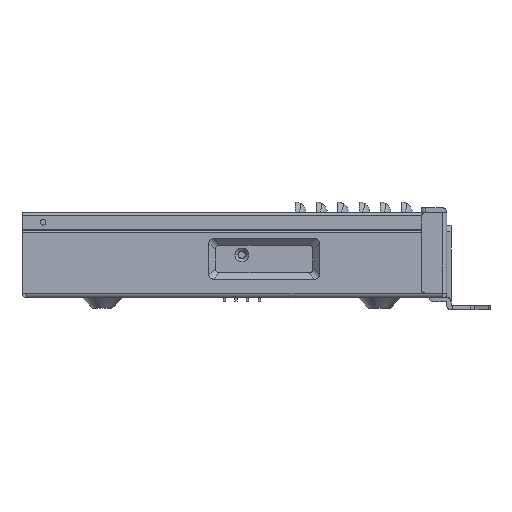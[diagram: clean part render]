
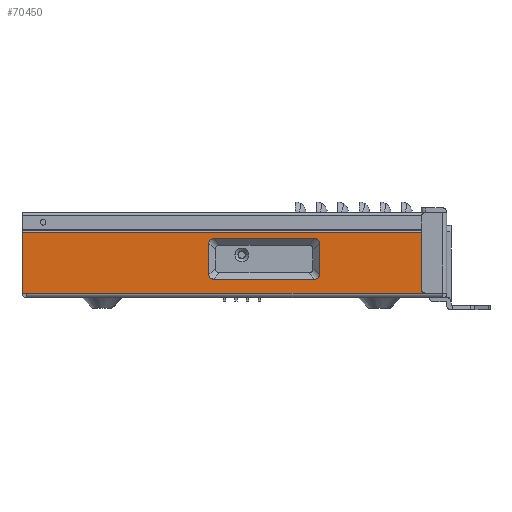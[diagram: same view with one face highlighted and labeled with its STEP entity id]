
A CAD part, front view. The second image highlights one B-rep face of the part: STEP entity #70450.
In plain terms, the highlighted planar face has unit normal (0, -1, 0).
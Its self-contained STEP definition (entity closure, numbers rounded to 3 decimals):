
#66256=DIRECTION('',(0.,0.,-1.));
#66257=VECTOR('',#66256,28.8);
#66258=CARTESIAN_POINT('',(65.678,168.042,32.9));
#66259=LINE('',#66258,#66257);
#66595=DIRECTION('',(-1.,0.,0.));
#66596=VECTOR('',#66595,47.757);
#66597=CARTESIAN_POINT('',(203.557,168.042,29.7));
#66598=LINE('',#66597,#66596);
#66602=CARTESIAN_POINT('',(205.678,168.042,27.579));
#66603=CARTESIAN_POINT('',(205.678,168.042,27.932));
#66604=CARTESIAN_POINT('',(205.564,168.042,28.526));
#66605=CARTESIAN_POINT('',(205.147,168.042,29.169));
#66606=CARTESIAN_POINT('',(204.503,168.042,29.586));
#66607=CARTESIAN_POINT('',(203.91,168.042,29.7));
#66608=CARTESIAN_POINT('',(203.557,168.042,29.7));
#66624=DIRECTION('',(0.,0.,1.));
#66625=VECTOR('',#66624,28.8);
#66626=CARTESIAN_POINT('',(263.578,168.042,4.1));
#66627=LINE('',#66626,#66625);
#66645=DIRECTION('',(0.,0.,-1.));
#66646=VECTOR('',#66645,14.757);
#66647=CARTESIAN_POINT('',(153.678,168.042,27.579));
#66648=LINE('',#66647,#66646);
#66652=CARTESIAN_POINT('',(155.799,168.042,29.7));
#66653=CARTESIAN_POINT('',(155.446,168.042,29.7));
#66654=CARTESIAN_POINT('',(154.852,168.042,29.586));
#66655=CARTESIAN_POINT('',(154.208,168.042,29.169));
#66656=CARTESIAN_POINT('',(153.792,168.042,28.526));
#66657=CARTESIAN_POINT('',(153.678,168.042,27.932));
#66658=CARTESIAN_POINT('',(153.678,168.042,27.579));
#66674=CARTESIAN_POINT('',(153.678,168.042,12.821));
#66675=CARTESIAN_POINT('',(153.678,168.042,12.468));
#66676=CARTESIAN_POINT('',(153.792,168.042,11.874));
#66677=CARTESIAN_POINT('',(154.208,168.042,11.231));
#66678=CARTESIAN_POINT('',(154.852,168.042,10.814));
#66679=CARTESIAN_POINT('',(155.446,168.042,10.7));
#66680=CARTESIAN_POINT('',(155.799,168.042,10.7));
#66710=DIRECTION('',(1.,0.,0.));
#66711=VECTOR('',#66710,47.757);
#66712=CARTESIAN_POINT('',(155.799,168.042,10.7));
#66713=LINE('',#66712,#66711);
#66717=CARTESIAN_POINT('',(203.557,168.042,10.7));
#66718=CARTESIAN_POINT('',(203.91,168.042,10.7));
#66719=CARTESIAN_POINT('',(204.503,168.042,10.814));
#66720=CARTESIAN_POINT('',(205.147,168.042,11.231));
#66721=CARTESIAN_POINT('',(205.564,168.042,11.874));
#66722=CARTESIAN_POINT('',(205.678,168.042,12.468));
#66723=CARTESIAN_POINT('',(205.678,168.042,12.821));
#66753=DIRECTION('',(0.,0.,1.));
#66754=VECTOR('',#66753,14.757);
#66755=CARTESIAN_POINT('',(205.678,168.042,12.821));
#66756=LINE('',#66755,#66754);
#66760=DIRECTION('',(1.,0.,0.));
#66761=VECTOR('',#66760,197.9);
#66762=CARTESIAN_POINT('',(65.678,168.042,32.9));
#66763=LINE('',#66762,#66761);
#66994=DIRECTION('',(1.,0.,0.));
#66995=VECTOR('',#66994,195.8);
#66996=CARTESIAN_POINT('',(67.778,168.042,4.1));
#66997=LINE('',#66996,#66995);
#69417=DIRECTION('',(-1.,0.,0.));
#69418=VECTOR('',#69417,2.1);
#69419=CARTESIAN_POINT('',(67.778,168.042,4.1));
#69420=LINE('',#69419,#69418);
#69721=CARTESIAN_POINT('',(263.578,168.042,4.1));
#69722=VERTEX_POINT('',#69721);
#69723=CARTESIAN_POINT('',(67.778,168.042,4.1));
#69724=VERTEX_POINT('',#69723);
#69733=CARTESIAN_POINT('',(65.678,168.042,4.1));
#69734=VERTEX_POINT('',#69733);
#69735=CARTESIAN_POINT('',(65.678,168.042,32.9));
#69736=VERTEX_POINT('',#69735);
#69737=CARTESIAN_POINT('',(263.578,168.042,32.9));
#69738=VERTEX_POINT('',#69737);
#69809=CARTESIAN_POINT('',(203.557,168.042,29.7));
#69810=VERTEX_POINT('',#69809);
#69811=CARTESIAN_POINT('',(155.799,168.042,29.7));
#69812=VERTEX_POINT('',#69811);
#69813=VERTEX_POINT('',#66602);
#69814=CARTESIAN_POINT('',(205.678,168.042,12.821));
#69815=VERTEX_POINT('',#69814);
#69816=VERTEX_POINT('',#66717);
#69817=CARTESIAN_POINT('',(155.799,168.042,10.7));
#69818=VERTEX_POINT('',#69817);
#69819=VERTEX_POINT('',#66674);
#69820=CARTESIAN_POINT('',(153.678,168.042,27.579));
#69821=VERTEX_POINT('',#69820);
#70418=CARTESIAN_POINT('',(201.787,168.042,19.191));
#70419=DIRECTION('',(0.,-1.,0.));
#70420=DIRECTION('',(1.,0.,0.));
#70421=AXIS2_PLACEMENT_3D('',#70418,#70419,#70420);
#70422=PLANE('',#70421);
#70423=ORIENTED_EDGE('',*,*,#70121,.F.);
#70425=ORIENTED_EDGE('',*,*,#70424,.T.);
#70427=ORIENTED_EDGE('',*,*,#70426,.F.);
#70429=ORIENTED_EDGE('',*,*,#70428,.F.);
#70431=ORIENTED_EDGE('',*,*,#70430,.T.);
#70432=EDGE_LOOP('',(#70423,#70425,#70427,#70429,#70431));
#70433=FACE_OUTER_BOUND('',#70432,.F.);
#70435=ORIENTED_EDGE('',*,*,#70434,.T.);
#70437=ORIENTED_EDGE('',*,*,#70436,.T.);
#70439=ORIENTED_EDGE('',*,*,#70438,.T.);
#70441=ORIENTED_EDGE('',*,*,#70440,.T.);
#70443=ORIENTED_EDGE('',*,*,#70442,.T.);
#70444=ORIENTED_EDGE('',*,*,#70410,.T.);
#70445=ORIENTED_EDGE('',*,*,#70399,.T.);
#70447=ORIENTED_EDGE('',*,*,#70446,.T.);
#70448=EDGE_LOOP('',(#70435,#70437,#70439,#70441,#70443,#70444,#70445,#70447));
#70449=FACE_BOUND('',#70448,.F.);
#66609=B_SPLINE_CURVE_WITH_KNOTS('',3,(#66602,#66603,#66604,#66605,#66606,
#66607,#66608),.UNSPECIFIED.,.F.,.F.,(4,1,1,1,4),(0.,0.25,0.5,0.75,
1.),.UNSPECIFIED.);
#66659=B_SPLINE_CURVE_WITH_KNOTS('',3,(#66652,#66653,#66654,#66655,#66656,
#66657,#66658),.UNSPECIFIED.,.F.,.F.,(4,1,1,1,4),(0.,0.25,0.5,0.75,
1.),.UNSPECIFIED.);
#66681=B_SPLINE_CURVE_WITH_KNOTS('',3,(#66674,#66675,#66676,#66677,#66678,
#66679,#66680),.UNSPECIFIED.,.F.,.F.,(4,1,1,1,4),(0.,0.25,0.5,0.75,
1.),.UNSPECIFIED.);
#66724=B_SPLINE_CURVE_WITH_KNOTS('',3,(#66717,#66718,#66719,#66720,#66721,
#66722,#66723),.UNSPECIFIED.,.F.,.F.,(4,1,1,1,4),(0.,0.25,0.5,0.75,
1.),.UNSPECIFIED.);
#70121=EDGE_CURVE('',#69736,#69734,#66259,.T.);
#70399=EDGE_CURVE('',#69810,#69812,#66598,.T.);
#70410=EDGE_CURVE('',#69813,#69810,#66609,.T.);
#70424=EDGE_CURVE('',#69736,#69738,#66763,.T.);
#70426=EDGE_CURVE('',#69722,#69738,#66627,.T.);
#70428=EDGE_CURVE('',#69724,#69722,#66997,.T.);
#70430=EDGE_CURVE('',#69724,#69734,#69420,.T.);
#70434=EDGE_CURVE('',#69821,#69819,#66648,.T.);
#70436=EDGE_CURVE('',#69819,#69818,#66681,.T.);
#70438=EDGE_CURVE('',#69818,#69816,#66713,.T.);
#70440=EDGE_CURVE('',#69816,#69815,#66724,.T.);
#70442=EDGE_CURVE('',#69815,#69813,#66756,.T.);
#70446=EDGE_CURVE('',#69812,#69821,#66659,.T.);
#70450=ADVANCED_FACE('',(#70433,#70449),#70422,.T.);
